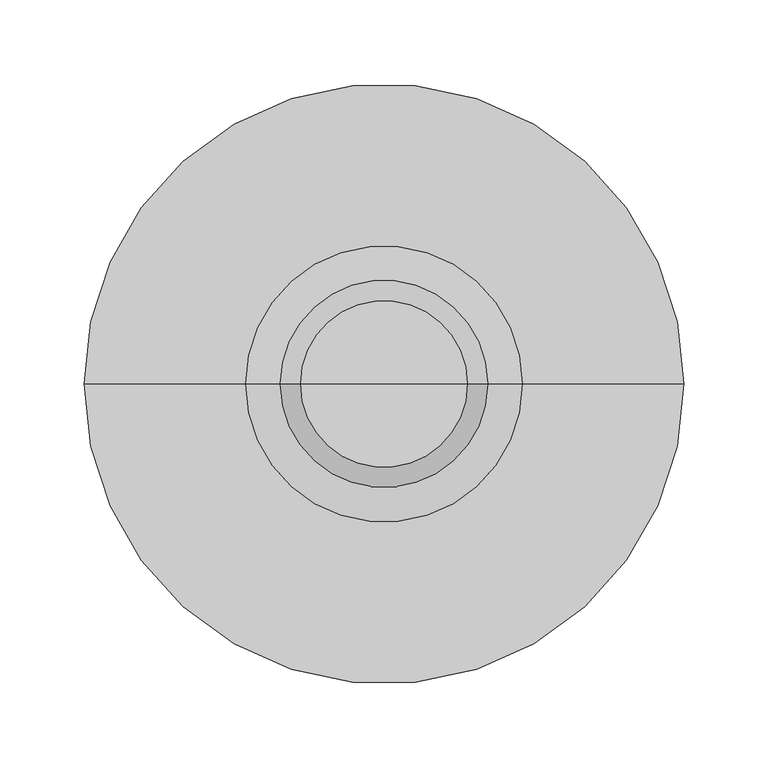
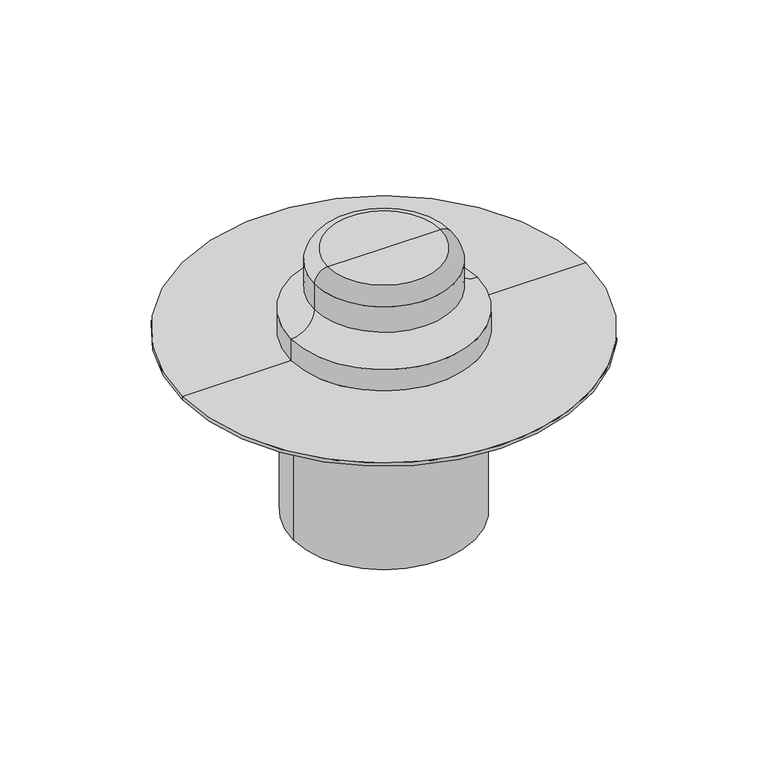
"""IFC4 building model written with IfcOpenShell, lengths in millimetres: flow terminal geometry, BIMLIB_Воронка_Кровельная_Fachmann_VM : 160х165."""

from ifc_helpers import new_model, si_unit, point, frame, origin, origin_with_axes, place, context, project, spatial, polyline, circle_curve, ellipse_curve, trimmed, source, transform, mapped, element, save
from ifc_brep_helpers import plane_surface, cylinder_surface, revolved_surface, advanced_brep


def flow_terminal_dcd2441b(model_context):
    return source(origin(), model_context, "Body", "AdvancedBrep", [
        advanced_brep(
        [(80.0, 0.0, -165.0), (-80.0, 0.0, -165.0), (-80.0, 0.0, -57.0), (80.0, 0.0, -57.0), (-113.0, 0.0, -9.0), (113.0, 0.0, -9.0), (113.0, 0.0, -32.0), (-113.0, 0.0, -32.0), (0.0, 0.0, 0.0), (138.0, 0.0, 0.0), (-138.0, 0.0, 0.0), (-90.0, 0.0, -32.0), (90.0, 0.0, -32.0), (90.0, 0.0, -40.0), (-90.0, 0.0, -40.0)],
        [
            (0, 1, circle_curve(frame((0.0, 0.0, -165.0), z_axis=(0.0, 0.0, -1.0), x_axis=(-1.0, 0.0, 0.0)), 80.0)),
            (1, 0, circle_curve(frame((0.0, 0.0, -165.0), z_axis=(0.0, 0.0, -1.0), x_axis=(-1.0, 0.0, 0.0)), 80.0)),
            (1, 2),
            (2, 3, circle_curve(frame((0.0, 0.0, -57.0), z_axis=(0.0, 0.0, -1.0), x_axis=(-1.0, 0.0, 0.0)), 80.0)),
            (3, 0),
            (3, 2, circle_curve(frame((0.0, 0.0, -57.0), z_axis=(0.0, 0.0, -1.0), x_axis=(-1.0, 0.0, 0.0)), 80.0)),
            (4, 5, circle_curve(frame((0.0, 0.0, -9.0), z_axis=(0.0, 0.0, -1.0), x_axis=(1.0, 0.0, 0.0)), 113.0)),
            (5, 6),
            (6, 7, circle_curve(frame((0.0, 0.0, -32.0), z_axis=(0.0, 0.0, 1.0), x_axis=(1.0, 0.0, 0.0)), 113.0)),
            (7, 4),
            (5, 4, circle_curve(frame((0.0, 0.0, -9.0), z_axis=(0.0, 0.0, -1.0), x_axis=(1.0, 0.0, 0.0)), 113.0)),
            (7, 6, circle_curve(frame((0.0, 0.0, -32.0), z_axis=(0.0, 0.0, 1.0), x_axis=(1.0, 0.0, 0.0)), 113.0)),
            (8, 9),
            (9, 10, circle_curve(origin_with_axes(), 138.0)),
            (10, 8),
            (10, 9, circle_curve(origin_with_axes(), 138.0)),
            (4, 10),
            (9, 5),
            (11, 12, circle_curve(frame((0.0, 0.0, -32.0), z_axis=(0.0, 0.0, -1.0), x_axis=(1.0, 0.0, 0.0)), 90.0)),
            (12, 13),
            (13, 14, circle_curve(frame((0.0, 0.0, -40.0), z_axis=(0.0, 0.0, 1.0), x_axis=(1.0, 0.0, 0.0)), 90.0)),
            (14, 11),
            (12, 11, circle_curve(frame((0.0, 0.0, -32.0), z_axis=(0.0, 0.0, -1.0), x_axis=(1.0, 0.0, 0.0)), 90.0)),
            (14, 13, circle_curve(frame((0.0, 0.0, -40.0), z_axis=(0.0, 0.0, 1.0), x_axis=(1.0, 0.0, 0.0)), 90.0)),
            (6, 12),
            (11, 7),
            (13, 3),
            (2, 14),
        ],
        [
            plane_surface(frame((-80.0, 0.0, -165.0), z_axis=(0.0, 0.0, -1.0), x_axis=(0.0, 1.0, 0.0))),
            cylinder_surface(frame((0.0, 0.0, -165.0), z_axis=(0.0, 0.0, 1.0), x_axis=(-1.0, 0.0, 0.0)), 80.0),
            cylinder_surface(frame((0.0, 0.0, 159.0), z_axis=(0.0, 0.0, 1.0), x_axis=(1.0, 0.0, 0.0)), 113.0),
            plane_surface(origin_with_axes()),
            revolved_surface(polyline([(113.0, 0.0, -9.0), (138.0, 0.0, 0.0)]), (0.0, 0.0, 159.0), (0.0, 0.0, 1.0)),
            cylinder_surface(frame((0.0, 0.0, 159.0), z_axis=(0.0, 0.0, 1.0), x_axis=(1.0, 0.0, 0.0)), 90.0),
            plane_surface(frame((0.0, 0.0, -32.0), z_axis=(0.0, 0.0, -1.0), x_axis=(1.0, 0.0, 0.0))),
            revolved_surface(polyline([(80.0, 0.0, -57.0), (90.0, 0.0, -40.0)]), (0.0, 0.0, 159.0), (0.0, 0.0, 1.0)),
        ],
        [
            (0, [[1, 2]]),
            (1, [[-2, 3, 4, 5]]),
            (1, [[-1, -5, 6, -3]]),
            (2, [[7, 8, 9, 10]]),
            (2, [[-8, 11, -10, 12]]),
            (3, [[13, 14, 15]]),
            (3, [[-13, -15, 16]]),
            (4, [[-7, 17, -14, 18]]),
            (4, [[-11, -18, -16, -17]]),
            (5, [[19, 20, 21, 22]]),
            (5, [[-20, 23, -22, 24]]),
            (6, [[-9, 25, -19, 26]]),
            (6, [[-12, -26, -23, -25]]),
            (7, [[-21, 27, -4, 28]]),
            (7, [[-24, -28, -6, -27]]),
        ],
    ),
        advanced_brep(
        [(0.0, 0.0, 79.0), (49.5, 0.0, 79.0), (-49.5, 0.0, 79.0), (-178.0, 0.0, 0.0), (178.0, 0.0, 0.0), (0.0, 0.0, 0.0), (-178.0, 0.0, 3.0), (178.0, 0.0, 3.0), (-82.0, 0.0, 3.0), (82.0, 0.0, 3.0), (-61.5, 0.0, 67.0), (61.5, 0.0, 67.0), (61.5, 0.0, 43.5), (-61.5, 0.0, 43.5), (-82.0, 0.0, 23.0), (82.0, 0.0, 23.0)],
        [
            (0, 1),
            (1, 2, circle_curve(frame((0.0, 0.0, 79.0), z_axis=(0.0, 0.0, 1.0), x_axis=(1.0, 0.0, 0.0)), 49.5)),
            (2, 0),
            (2, 1, circle_curve(frame((0.0, 0.0, 79.0), z_axis=(0.0, 0.0, 1.0), x_axis=(1.0, 0.0, 0.0)), 49.5)),
            (3, 4, circle_curve(frame((0.0, 0.0, 0.0), z_axis=(0.0, 0.0, -1.0), x_axis=(1.0, 0.0, 0.0)), 178.0)),
            (4, 5),
            (5, 3),
            (4, 3, circle_curve(frame((0.0, 0.0, 0.0), z_axis=(0.0, 0.0, -1.0), x_axis=(1.0, 0.0, 0.0)), 178.0)),
            (6, 7, circle_curve(frame((0.0, 0.0, 3.0), z_axis=(0.0, 0.0, -1.0), x_axis=(1.0, 0.0, 0.0)), 178.0)),
            (7, 4),
            (3, 6),
            (7, 6, circle_curve(frame((0.0, 0.0, 3.0), z_axis=(0.0, 0.0, -1.0), x_axis=(1.0, 0.0, 0.0)), 178.0)),
            (8, 9, circle_curve(frame((0.0, 0.0, 3.0), z_axis=(0.0, 0.0, -1.0), x_axis=(1.0, 0.0, 0.0)), 82.0)),
            (9, 7),
            (6, 8),
            (9, 8, circle_curve(frame((0.0, 0.0, 3.0), z_axis=(0.0, 0.0, -1.0), x_axis=(1.0, 0.0, 0.0)), 82.0)),
            (10, 11, circle_curve(frame((0.0, 0.0, 67.0), z_axis=(0.0, 0.0, -1.0), x_axis=(1.0, 0.0, 0.0)), 61.5)),
            (11, 12),
            (12, 13, circle_curve(frame((0.0, 0.0, 43.5), z_axis=(0.0, 0.0, 1.0), x_axis=(1.0, 0.0, 0.0)), 61.5)),
            (13, 10),
            (11, 10, circle_curve(frame((0.0, 0.0, 67.0), z_axis=(0.0, 0.0, -1.0), x_axis=(1.0, 0.0, 0.0)), 61.5)),
            (13, 12, circle_curve(frame((0.0, 0.0, 43.5), z_axis=(0.0, 0.0, 1.0), x_axis=(1.0, 0.0, 0.0)), 61.5)),
            (1, 11, circle_curve(frame((49.5, 0.0, 67.0), z_axis=(0.0, 1.0, 0.0), x_axis=(1.0, 0.0, 0.0)), 12.0)),
            (10, 2, circle_curve(frame((-49.5, 0.0, 67.0), z_axis=(0.0, 1.0, 0.0), x_axis=(-1.0, 0.0, 0.0)), 12.0)),
            (14, 15, circle_curve(frame((0.0, 0.0, 23.0), z_axis=(0.0, 0.0, -1.0), x_axis=(1.0, 0.0, 0.0)), 82.0)),
            (15, 9),
            (8, 14),
            (15, 14, circle_curve(frame((0.0, 0.0, 23.0), z_axis=(0.0, 0.0, -1.0), x_axis=(1.0, 0.0, 0.0)), 82.0)),
            (12, 15, circle_curve(frame((82.0, 0.0, 43.5), z_axis=(0.0, -1.0, 0.0), x_axis=(1.0, 0.0, 0.0)), 20.5)),
            (14, 13, circle_curve(frame((-82.0, 0.0, 43.5), z_axis=(0.0, -1.0, 0.0), x_axis=(-1.0, 0.0, 0.0)), 20.5)),
        ],
        [
            plane_surface(frame((0.0, 0.0, 79.0), z_axis=(0.0, 0.0, 1.0), x_axis=(1.0, 0.0, 0.0))),
            plane_surface(frame((0.0, 0.0, 0.0), z_axis=(0.0, 0.0, -1.0), x_axis=(1.0, 0.0, 0.0))),
            cylinder_surface(frame((0.0, 0.0, 229.0), z_axis=(0.0, 0.0, 1.0), x_axis=(1.0, 0.0, 0.0)), 178.0),
            plane_surface(frame((0.0, 0.0, 3.0), z_axis=(0.0, 0.0, 1.0), x_axis=(1.0, 0.0, 0.0))),
            cylinder_surface(frame((0.0, 0.0, 229.0), z_axis=(0.0, 0.0, 1.0), x_axis=(1.0, 0.0, 0.0)), 61.5),
            revolved_surface(trimmed(ellipse_curve(frame((49.5, 0.0, 67.0), z_axis=(0.0, -1.0, 0.0), x_axis=(1.0, 0.0, 0.0)), 12.0, 12.0), [point((61.5, 0.0, 67.0))], [point((49.5, 0.0, 79.0))], True, "CARTESIAN"), (0.0, 0.0, 229.0), (0.0, 0.0, 1.0)),
            cylinder_surface(frame((0.0, 0.0, 229.0), z_axis=(0.0, 0.0, 1.0), x_axis=(1.0, 0.0, 0.0)), 82.0),
            revolved_surface(trimmed(ellipse_curve(frame((82.0, 0.0, 43.5), z_axis=(0.0, 1.0, 0.0), x_axis=(1.0, 0.0, 0.0)), 20.5, 20.5), [point((82.0, 0.0, 23.0))], [point((61.5, 0.0, 43.5))], True, "CARTESIAN"), (0.0, 0.0, 229.0), (0.0, 0.0, 1.0)),
        ],
        [
            (0, [[1, 2, 3]]),
            (0, [[-3, 4, -1]]),
            (1, [[5, 6, 7]]),
            (1, [[8, -7, -6]]),
            (2, [[9, 10, -5, 11]]),
            (2, [[12, -11, -8, -10]]),
            (3, [[13, 14, -9, 15]]),
            (3, [[16, -15, -12, -14]]),
            (4, [[17, 18, 19, 20]]),
            (4, [[21, -20, 22, -18]]),
            (5, [[-2, 23, -17, 24]]),
            (5, [[-4, -24, -21, -23]]),
            (6, [[25, 26, -13, 27]]),
            (6, [[28, -27, -16, -26]]),
            (7, [[-19, 29, -25, 30]]),
            (7, [[-22, -30, -28, -29]]),
        ],
    ),
    ])


if __name__ == "__main__":
    model = new_model("IFC4")
    model_context = context("Model", 3, world=origin())
    ifc_project = project(units=[si_unit("LENGTHUNIT", "METRE", prefix="MILLI")], contexts=[model_context])
    site = spatial("IfcSite", under=ifc_project)
    building = spatial("IfcBuilding", under=site)
    placement = place(None, origin())
    flow_terminal_shape = flow_terminal_dcd2441b(model_context)
    element("IfcFlowTerminal", 1, ObjectType="BIMLIB_Воронка_Кровельная_Fachmann_VM : 160х165", at=placement, inside=building, context=model_context, shape_type="MappedRepresentation", body=[
        mapped(flow_terminal_shape, transform((0.0, 0.0, 0.0), x_axis=(1.0, 0.0, 0.0), y_axis=(0.0, 1.0, 0.0), z_axis=(0.0, 0.0, 1.0))),
    ])
    save(model, "model.ifc")
